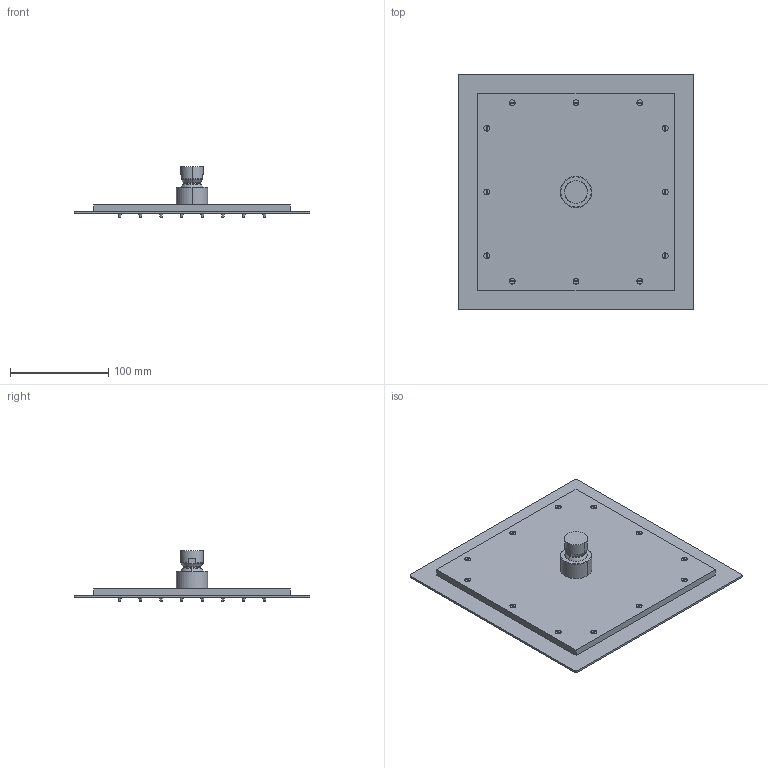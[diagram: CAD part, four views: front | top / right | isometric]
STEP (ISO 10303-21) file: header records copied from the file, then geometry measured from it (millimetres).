
FILE_DESCRIPTION((''),'2;1');
FILE_NAME('90920_SW0001','2021-05-04T16:39:26',('carloff'),(''),'CREO PARAMETRIC BY PTC INC, 2018100','CREO PARAMETRIC BY PTC INC, 2018100','');
FILE_SCHEMA(('CONFIG_CONTROL_DESIGN'));
Length unit declared in the file: millimetre
Products named in the file (1): 90920_SW0001
Bounding box: 240 x 240 x 51.8 mm (x, y, z)
Volume: 414981.4 mm3; surface area: 134773.6 mm2
Topology: 1 solids, 4 shells, 526 faces, 1159 edges, 732 vertices
Faces by surface type: torus 263, plane 185, cylinder 44, cone 32, sphere 2
Entity records: 15124 total; most frequent: DIRECTION 2950, CARTESIAN_POINT 2843, ORIENTED_EDGE 2318, AXIS2_PLACEMENT_3D 1329, EDGE_CURVE 1159, CIRCLE 803, VERTEX_POINT 732, EDGE_LOOP 619
